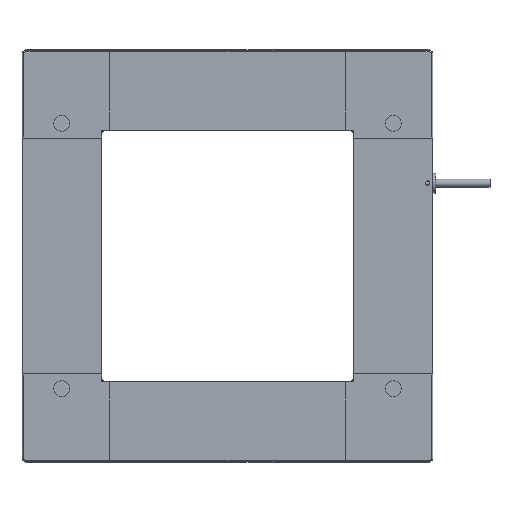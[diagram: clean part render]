
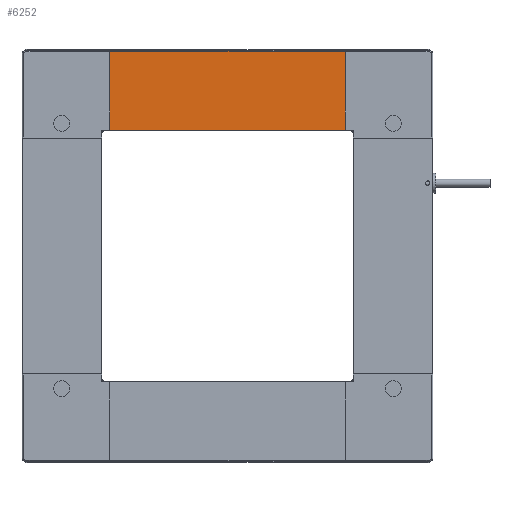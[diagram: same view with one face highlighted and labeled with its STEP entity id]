
A CAD part, front view. The second image highlights one B-rep face of the part: STEP entity #6252.
In plain terms, the highlighted planar face has unit normal (0, -1, 0).
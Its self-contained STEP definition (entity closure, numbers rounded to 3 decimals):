
#1495 = PLANE ( 'NONE',  #6695 ) ;
#1537 = DIRECTION ( 'NONE',  ( 0., 0., -1. ) ) ;
#1541 = CARTESIAN_POINT ( 'NONE',  ( 44.5, 0.2, 44.5 ) ) ;
#1728 = FACE_OUTER_BOUND ( 'NONE', #8759, .T. ) ;
#2582 = ORIENTED_EDGE ( 'NONE', *, *, #5814, .F. ) ;
#2716 = DIRECTION ( 'NONE',  ( -1., 0., 0. ) ) ;
#2890 = CARTESIAN_POINT ( 'NONE',  ( 0., 0.2, 47.5 ) ) ;
#2924 = CARTESIAN_POINT ( 'NONE',  ( 44.5, 0.2, 47.5 ) ) ;
#4138 = CARTESIAN_POINT ( 'NONE',  ( -44.5, 0.2, 77.2 ) ) ;
#4502 = VECTOR ( 'NONE', #5474, 1000. ) ;
#5447 = ORIENTED_EDGE ( 'NONE', *, *, #7427, .F. ) ;
#5474 = DIRECTION ( 'NONE',  ( 0., 0., -1. ) ) ;
#5479 = EDGE_CURVE ( 'NONE', #11062, #12617, #12278, .T. ) ;
#5814 = EDGE_CURVE ( 'NONE', #12617, #9395, #7088, .T. ) ;
#5986 = VECTOR ( 'NONE', #8695, 1000. ) ;
#6252 = ADVANCED_FACE ( 'NONE', ( #1728 ), #1495, .T. ) ;
#6459 = CARTESIAN_POINT ( 'NONE',  ( 0., 0.2, 0. ) ) ;
#6695 = AXIS2_PLACEMENT_3D ( 'NONE', #6459, #8210, #1537 ) ;
#6752 = CARTESIAN_POINT ( 'NONE',  ( 44.5, 0.2, 77.2 ) ) ;
#7088 = LINE ( 'NONE', #1541, #4502 ) ;
#7427 = EDGE_CURVE ( 'NONE', #8459, #11062, #9482, .T. ) ;
#7582 = LINE ( 'NONE', #2890, #10780 ) ;
#8210 = DIRECTION ( 'NONE',  ( 0., -1., 0. ) ) ;
#8459 = VERTEX_POINT ( 'NONE', #10640 ) ;
#8529 = ORIENTED_EDGE ( 'NONE', *, *, #11213, .F. ) ;
#8695 = DIRECTION ( 'NONE',  ( 0., 0., 1. ) ) ;
#8759 = EDGE_LOOP ( 'NONE', ( #8529, #2582, #10079, #5447 ) ) ;
#9395 = VERTEX_POINT ( 'NONE', #2924 ) ;
#9482 = LINE ( 'NONE', #12518, #5986 ) ;
#9529 = VECTOR ( 'NONE', #11721, 1000. ) ;
#10079 = ORIENTED_EDGE ( 'NONE', *, *, #5479, .F. ) ;
#10640 = CARTESIAN_POINT ( 'NONE',  ( -44.5, 0.2, 47.5 ) ) ;
#10780 = VECTOR ( 'NONE', #2716, 1000. ) ;
#10855 = CARTESIAN_POINT ( 'NONE',  ( -77.5, 0.2, 77.2 ) ) ;
#11062 = VERTEX_POINT ( 'NONE', #4138 ) ;
#11213 = EDGE_CURVE ( 'NONE', #9395, #8459, #7582, .T. ) ;
#11721 = DIRECTION ( 'NONE',  ( 1., 0., 0. ) ) ;
#12278 = LINE ( 'NONE', #10855, #9529 ) ;
#12518 = CARTESIAN_POINT ( 'NONE',  ( -44.5, 0.2, 44.5 ) ) ;
#12617 = VERTEX_POINT ( 'NONE', #6752 ) ;
